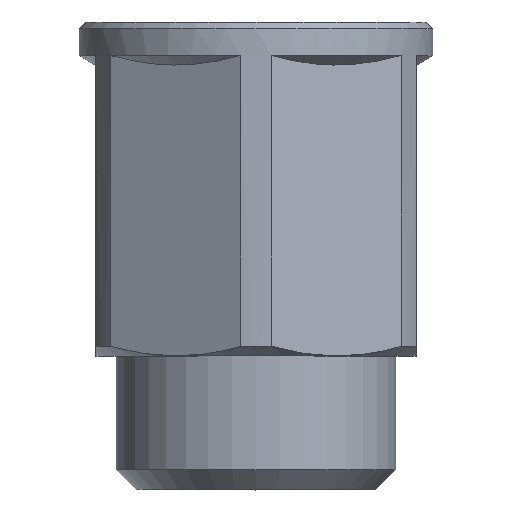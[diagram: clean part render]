
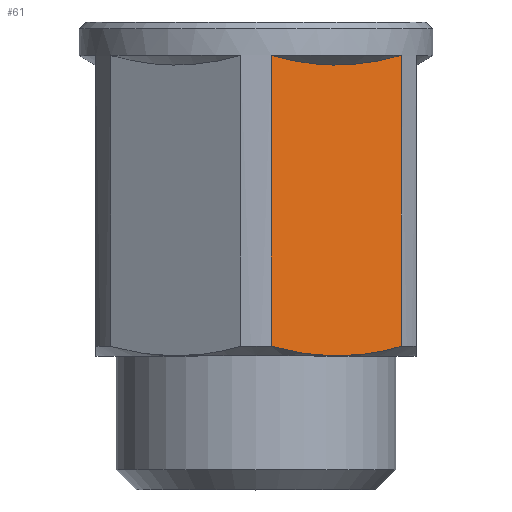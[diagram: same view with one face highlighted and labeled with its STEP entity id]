
A CAD part, top view. The second image highlights one B-rep face of the part: STEP entity #61.
In plain terms, the highlighted planar face has unit normal (0.5, 0, 0.866).
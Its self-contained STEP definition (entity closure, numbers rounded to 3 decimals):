
#61=ADVANCED_FACE('',(#217),#219,.T.);
#217=FACE_BOUND('',#218,.T.);
#218=EDGE_LOOP('',(#399,#400,#401,#402,#403));
#219=PLANE('',#220);
#220=AXIS2_PLACEMENT_3D('',#221,#222,#223);
#221=CARTESIAN_POINT('',(0.,0.,13.856));
#222=DIRECTION('',(0.5,0.,0.866));
#223=DIRECTION('',(0.866,0.,-0.5));
#399=ORIENTED_EDGE('',*,*,#499,.F.);
#400=ORIENTED_EDGE('',*,*,#484,.T.);
#401=ORIENTED_EDGE('',*,*,#497,.T.);
#402=ORIENTED_EDGE('',*,*,#500,.T.);
#403=ORIENTED_EDGE('',*,*,#486,.T.);
#484=EDGE_CURVE('',#582,#583,#584,.F.);
#486=EDGE_CURVE('',#587,#585,#588,.T.);
#497=EDGE_CURVE('',#580,#604,#605,.T.);
#499=EDGE_CURVE('',#582,#585,#607,.T.);
#500=EDGE_CURVE('',#604,#587,#608,.T.);
#580=VERTEX_POINT('',#775);
#582=VERTEX_POINT('',#780);
#583=VERTEX_POINT('',#781);
#584=LINE('',#782,#783);
#585=VERTEX_POINT('',#785);
#587=VERTEX_POINT('',#790);
#588=LINE('',#791,#792);
#604=VERTEX_POINT('',#999);
#605=B_SPLINE_CURVE_WITH_KNOTS('',3,
(#1000,#1001,#1002,#1003,#1004,#1005,#1006,#1007,#1008,#1009,#1010,#1011,#1012,#1013,
#1014,#1015,#1016,#1017,#1018,#1019,#1020),
.UNSPECIFIED.,.F.,.F.,
(4,1,1,1,1,1,1,1,1,1,1,1,1,1,1,1,1,1,4),
(0.,0.097,0.195,0.277,0.34,0.396,
0.458,0.516,0.561,0.61,0.659,
0.711,0.75,0.791,0.832,0.873,
0.915,0.958,1.),
.UNSPECIFIED.);
#607=B_SPLINE_CURVE_WITH_KNOTS('',3,
(#1025,#1026,#1027,#1028,#1029,#1030,#1031,#1032,#1033,#1034,#1035,#1036,#1037,#1038,
#1039,#1040,#1041,#1042,#1043,#1044,#1045,#1046,#1047,#1048,#1049,#1050,#1051,#1052,
#1053,#1054,#1055,#1056,#1057,#1058,#1059,#1060,#1061,#1062,#1063,#1064,#1065),
.UNSPECIFIED.,.F.,.F.,
(4,1,1,1,1,1,1,1,1,1,1,1,1,1,1,1,1,1,1,1,1,1,1,1,1,1,1,1,1,1,1,1,1,1,1,1,1,1,4),
(0.,0.017,0.033,0.05,0.067,
0.084,0.102,0.119,0.137,0.156,
0.177,0.201,0.24,0.279,0.32,
0.35,0.378,0.405,0.432,0.46,
0.488,0.5,0.517,0.546,0.576,
0.606,0.635,0.665,0.696,0.726,
0.756,0.787,0.817,0.847,0.878,
0.908,0.939,0.969,1.),
.UNSPECIFIED.);
#608=B_SPLINE_CURVE_WITH_KNOTS('',3,
(#1066,#1067,#1068,#1069,#1070,#1071,#1072,#1073,#1074,#1075,#1076,#1077,#1078,#1079,
#1080,#1081,#1082,#1083,#1084,#1085,#1086),
.UNSPECIFIED.,.F.,.F.,
(4,1,1,1,1,1,1,1,1,1,1,1,1,1,1,1,1,1,4),
(0.,0.047,0.094,0.14,0.186,0.231,
0.275,0.317,0.358,0.399,0.443,
0.49,0.543,0.6,0.677,0.762,
0.85,0.926,1.),
.UNSPECIFIED.);
#775=CARTESIAN_POINT('',(1.135,0.722,13.201));
#780=CARTESIAN_POINT('',(1.135,22.5,13.201));
#781=CARTESIAN_POINT('',(1.135,0.722,13.201));
#782=CARTESIAN_POINT('',(1.135,0.722,13.201));
#783=VECTOR('',#784,1.);
#784=DIRECTION('',(0.,1.,0.));
#785=CARTESIAN_POINT('',(10.865,22.5,7.583));
#790=CARTESIAN_POINT('',(10.865,0.722,7.583));
#791=CARTESIAN_POINT('',(10.865,0.722,7.583));
#792=VECTOR('',#793,1.);
#793=DIRECTION('',(0.,1.,0.));
#999=CARTESIAN_POINT('',(6.,0.,10.392));
#1000=CARTESIAN_POINT('',(1.135,0.722,13.201));
#1001=CARTESIAN_POINT('',(1.289,0.678,13.112));
#1002=CARTESIAN_POINT('',(1.6,0.594,12.933));
#1003=CARTESIAN_POINT('',(2.044,0.483,12.676));
#1004=CARTESIAN_POINT('',(2.436,0.395,12.45));
#1005=CARTESIAN_POINT('',(2.759,0.328,12.263));
#1006=CARTESIAN_POINT('',(3.052,0.273,12.095));
#1007=CARTESIAN_POINT('',(3.337,0.223,11.93));
#1008=CARTESIAN_POINT('',(3.605,0.181,11.775));
#1009=CARTESIAN_POINT('',(3.852,0.146,11.632));
#1010=CARTESIAN_POINT('',(4.085,0.116,11.498));
#1011=CARTESIAN_POINT('',(4.329,0.088,11.357));
#1012=CARTESIAN_POINT('',(4.559,0.066,11.224));
#1013=CARTESIAN_POINT('',(4.773,0.048,11.1));
#1014=CARTESIAN_POINT('',(4.972,0.033,10.986));
#1015=CARTESIAN_POINT('',(5.173,0.021,10.869));
#1016=CARTESIAN_POINT('',(5.378,0.012,10.751));
#1017=CARTESIAN_POINT('',(5.584,0.005,10.632));
#1018=CARTESIAN_POINT('',(5.792,0.001,10.513));
#1019=CARTESIAN_POINT('',(5.931,0.,10.432));
#1020=CARTESIAN_POINT('',(6.,0.,10.392));
#1025=CARTESIAN_POINT('',(1.135,22.5,13.201));
#1026=CARTESIAN_POINT('',(1.187,22.485,13.171));
#1027=CARTESIAN_POINT('',(1.293,22.456,13.11));
#1028=CARTESIAN_POINT('',(1.453,22.412,13.018));
#1029=CARTESIAN_POINT('',(1.614,22.37,12.924));
#1030=CARTESIAN_POINT('',(1.777,22.328,12.83));
#1031=CARTESIAN_POINT('',(1.943,22.287,12.735));
#1032=CARTESIAN_POINT('',(2.111,22.247,12.638));
#1033=CARTESIAN_POINT('',(2.282,22.208,12.539));
#1034=CARTESIAN_POINT('',(2.456,22.17,12.438));
#1035=CARTESIAN_POINT('',(2.642,22.131,12.331));
#1036=CARTESIAN_POINT('',(2.849,22.089,12.211));
#1037=CARTESIAN_POINT('',(3.12,22.038,12.055));
#1038=CARTESIAN_POINT('',(3.451,21.982,11.864));
#1039=CARTESIAN_POINT('',(3.836,21.925,11.642));
#1040=CARTESIAN_POINT('',(4.195,21.881,11.434));
#1041=CARTESIAN_POINT('',(4.519,21.847,11.247));
#1042=CARTESIAN_POINT('',(4.796,21.824,11.087));
#1043=CARTESIAN_POINT('',(5.065,21.806,10.932));
#1044=CARTESIAN_POINT('',(5.333,21.792,10.777));
#1045=CARTESIAN_POINT('',(5.607,21.782,10.619));
#1046=CARTESIAN_POINT('',(5.83,21.779,10.49));
#1047=CARTESIAN_POINT('',(6.019,21.778,10.382));
#1048=CARTESIAN_POINT('',(6.209,21.779,10.271));
#1049=CARTESIAN_POINT('',(6.458,21.784,10.128));
#1050=CARTESIAN_POINT('',(6.747,21.795,9.961));
#1051=CARTESIAN_POINT('',(7.039,21.812,9.793));
#1052=CARTESIAN_POINT('',(7.331,21.834,9.624));
#1053=CARTESIAN_POINT('',(7.626,21.862,9.454));
#1054=CARTESIAN_POINT('',(7.921,21.895,9.283));
#1055=CARTESIAN_POINT('',(8.217,21.933,9.113));
#1056=CARTESIAN_POINT('',(8.513,21.977,8.942));
#1057=CARTESIAN_POINT('',(8.808,22.026,8.771));
#1058=CARTESIAN_POINT('',(9.104,22.08,8.6));
#1059=CARTESIAN_POINT('',(9.399,22.139,8.43));
#1060=CARTESIAN_POINT('',(9.693,22.202,8.26));
#1061=CARTESIAN_POINT('',(9.987,22.27,8.09));
#1062=CARTESIAN_POINT('',(10.281,22.342,7.921));
#1063=CARTESIAN_POINT('',(10.573,22.419,7.752));
#1064=CARTESIAN_POINT('',(10.768,22.473,7.639));
#1065=CARTESIAN_POINT('',(10.865,22.5,7.583));
#1066=CARTESIAN_POINT('',(6.,0.,10.392));
#1067=CARTESIAN_POINT('',(6.077,0.,10.348));
#1068=CARTESIAN_POINT('',(6.231,0.001,10.259));
#1069=CARTESIAN_POINT('',(6.46,0.006,10.126));
#1070=CARTESIAN_POINT('',(6.688,0.015,9.995));
#1071=CARTESIAN_POINT('',(6.912,0.026,9.866));
#1072=CARTESIAN_POINT('',(7.133,0.041,9.738));
#1073=CARTESIAN_POINT('',(7.348,0.058,9.614));
#1074=CARTESIAN_POINT('',(7.556,0.077,9.494));
#1075=CARTESIAN_POINT('',(7.76,0.098,9.376));
#1076=CARTESIAN_POINT('',(7.964,0.122,9.258));
#1077=CARTESIAN_POINT('',(8.178,0.15,9.135));
#1078=CARTESIAN_POINT('',(8.413,0.184,8.999));
#1079=CARTESIAN_POINT('',(8.668,0.224,8.852));
#1080=CARTESIAN_POINT('',(8.972,0.277,8.676));
#1081=CARTESIAN_POINT('',(9.326,0.345,8.472));
#1082=CARTESIAN_POINT('',(9.728,0.431,8.24));
#1083=CARTESIAN_POINT('',(10.127,0.525,8.01));
#1084=CARTESIAN_POINT('',(10.508,0.623,7.79));
#1085=CARTESIAN_POINT('',(10.747,0.688,7.652));
#1086=CARTESIAN_POINT('',(10.865,0.722,7.583));
